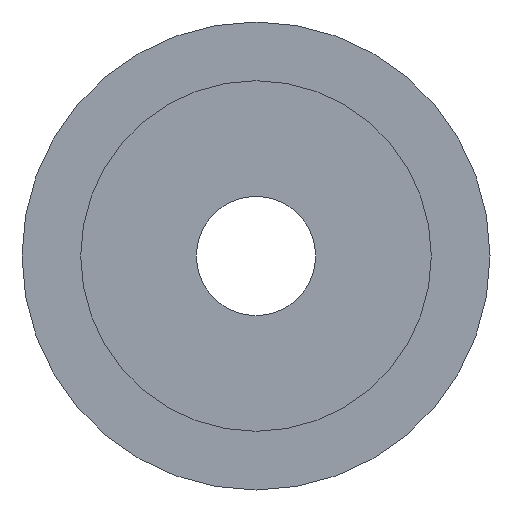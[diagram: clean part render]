
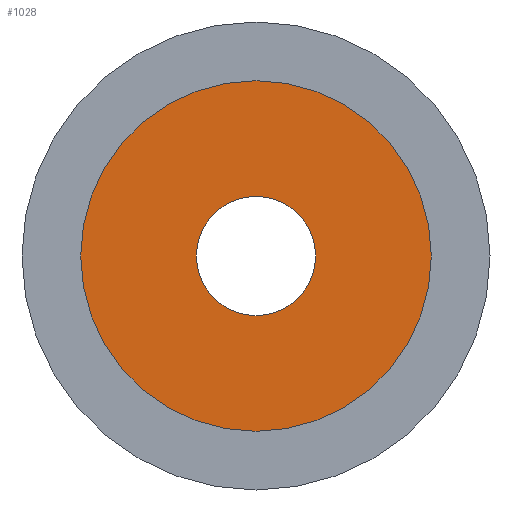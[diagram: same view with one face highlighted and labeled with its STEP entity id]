
A CAD part, left-side view. The second image highlights one B-rep face of the part: STEP entity #1028.
In plain terms, the highlighted planar face has unit normal (-1, 0, 0).
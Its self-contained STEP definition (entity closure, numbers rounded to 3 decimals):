
#132=CARTESIAN_POINT('',(2.5,20.6,0.0));
#133=VERTEX_POINT('',#132);
#149=CARTESIAN_POINT('',(2.5,-20.6,0.));
#150=VERTEX_POINT('',#149);
#157=CARTESIAN_POINT('',(2.5,0.0,0.0));
#158=DIRECTION('',(1.0,0.0,0.0));
#159=DIRECTION('',(0.0,1.0,0.0));
#160=AXIS2_PLACEMENT_3D('',#157,#158,#159);
#161=CIRCLE('',#160,20.6);
#162=EDGE_CURVE('',#150,#133,#161,.T.);
#172=CARTESIAN_POINT('',(2.5,7.,0.0));
#173=VERTEX_POINT('',#172);
#182=CARTESIAN_POINT('',(2.5,-7.,0.));
#183=VERTEX_POINT('',#182);
#184=CARTESIAN_POINT('',(2.5,0.0,0.0));
#185=DIRECTION('',(1.0,0.0,0.0));
#186=DIRECTION('',(0.0,1.0,0.0));
#187=AXIS2_PLACEMENT_3D('',#184,#185,#186);
#188=CIRCLE('',#187,7.);
#189=EDGE_CURVE('',#183,#173,#188,.T.);
#999=CARTESIAN_POINT('',(2.5,0.0,0.0));
#1000=DIRECTION('',(1.0,0.0,0.0));
#1001=DIRECTION('',(0.0,1.0,0.0));
#1002=AXIS2_PLACEMENT_3D('',#999,#1000,#1001);
#1003=CIRCLE('',#1002,7.);
#1004=EDGE_CURVE('',#173,#183,#1003,.T.);
#1009=CARTESIAN_POINT('',(2.5,13.8,0.0));
#1010=DIRECTION('',(-1.0,0.0,0.0));
#1011=DIRECTION('',(0.0,0.0,1.0));
#1012=AXIS2_PLACEMENT_3D('',#1009,#1010,#1011);
#1013=PLANE('',#1012);
#1014=CARTESIAN_POINT('',(2.5,0.0,0.0));
#1015=DIRECTION('',(1.0,0.0,0.0));
#1016=DIRECTION('',(0.0,1.0,0.0));
#1017=AXIS2_PLACEMENT_3D('',#1014,#1015,#1016);
#1018=CIRCLE('',#1017,20.6);
#1019=EDGE_CURVE('',#133,#150,#1018,.T.);
#1020=ORIENTED_EDGE('',*,*,#1019,.F.);
#1021=ORIENTED_EDGE('',*,*,#162,.F.);
#1022=EDGE_LOOP('',(#1020,#1021));
#1023=FACE_OUTER_BOUND('',#1022,.T.);
#1024=ORIENTED_EDGE('',*,*,#1004,.T.);
#1025=ORIENTED_EDGE('',*,*,#189,.T.);
#1026=EDGE_LOOP('',(#1024,#1025));
#1027=FACE_BOUND('',#1026,.T.);
#1028=ADVANCED_FACE('',(#1023,#1027),#1013,.T.);
